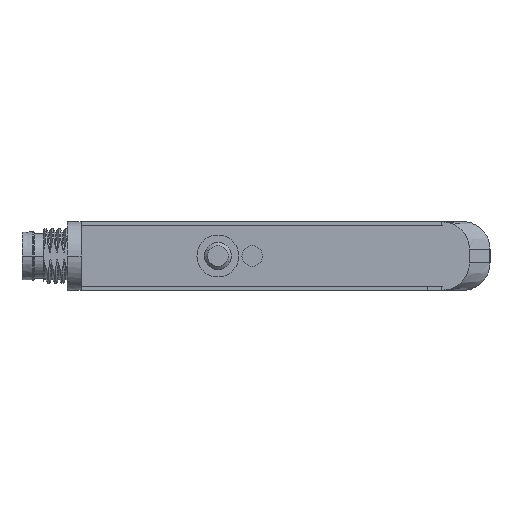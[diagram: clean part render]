
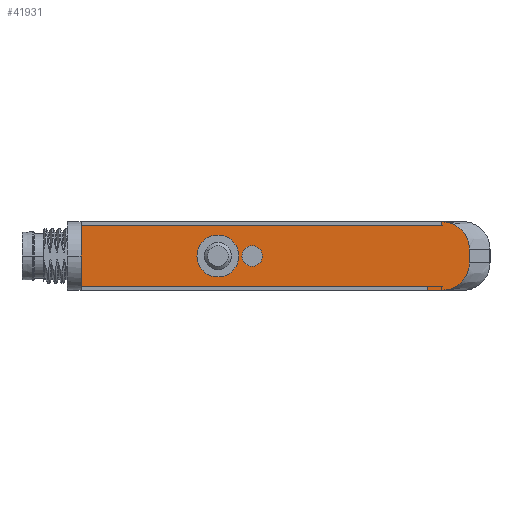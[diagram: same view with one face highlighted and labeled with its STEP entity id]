
A CAD part, left-side view. The second image highlights one B-rep face of the part: STEP entity #41931.
In plain terms, the highlighted planar face has unit normal (-1, 0, 0) as drawn and (0, 0, -1) by its records, which use the part's own axes.
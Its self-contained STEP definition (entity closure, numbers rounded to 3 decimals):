
#41572=CARTESIAN_POINT('',(3.15,-0.175,-0.75));
#41573=VERTEX_POINT('',#41572);
#41581=CARTESIAN_POINT('',(-2.95,-0.175,-0.75));
#41582=VERTEX_POINT('',#41581);
#41589=CARTESIAN_POINT('',(0.1,-0.175,-0.75));
#41590=DIRECTION('',(0.0,0.0,1.0));
#41591=DIRECTION('',(1.0,0.0,0.0));
#41592=AXIS2_PLACEMENT_3D('',#41589,#41590,#41591);
#41593=CIRCLE('',#41592,3.05);
#41594=EDGE_CURVE('',#41573,#41582,#41593,.T.);
#41690=CARTESIAN_POINT('',(3.6,-0.175,-0.75));
#41691=VERTEX_POINT('',#41690);
#41707=CARTESIAN_POINT('',(6.6,-0.175,-0.75));
#41708=VERTEX_POINT('',#41707);
#41715=CARTESIAN_POINT('',(5.1,-0.175,-0.75));
#41716=DIRECTION('',(0.0,0.0,1.0));
#41717=DIRECTION('',(-1.0,0.0,0.0));
#41718=AXIS2_PLACEMENT_3D('',#41715,#41716,#41717);
#41719=CIRCLE('',#41718,1.5);
#41720=EDGE_CURVE('',#41691,#41708,#41719,.T.);
#41731=CARTESIAN_POINT('',(5.1,-0.175,-0.75));
#41732=DIRECTION('',(0.0,0.0,1.0));
#41733=DIRECTION('',(-1.0,0.0,0.0));
#41734=AXIS2_PLACEMENT_3D('',#41731,#41732,#41733);
#41735=CIRCLE('',#41734,1.5);
#41736=EDGE_CURVE('',#41708,#41691,#41735,.T.);
#41783=CARTESIAN_POINT('',(32.7,-4.55,-0.75));
#41784=VERTEX_POINT('',#41783);
#41791=CARTESIAN_POINT('',(32.7,-5.175,-0.75));
#41792=VERTEX_POINT('',#41791);
#41793=CARTESIAN_POINT('',(32.7,-5.175,-0.75));
#41794=DIRECTION('',(0.0,1.0,0.0));
#41795=VECTOR('',#41794,0.625);
#41796=LINE('',#41793,#41795);
#41797=EDGE_CURVE('',#41792,#41784,#41796,.T.);
#41833=CARTESIAN_POINT('',(-22.625,-5.675,-0.75));
#41834=DIRECTION('',(0.0,0.0,1.0));
#41835=DIRECTION('',(1.0,0.0,0.0));
#41836=AXIS2_PLACEMENT_3D('',#41833,#41834,#41835);
#41837=PLANE('',#41836);
#41838=ORIENTED_EDGE('',*,*,#41797,.T.);
#41839=CARTESIAN_POINT('',(-19.8,-4.55,-0.75));
#41840=VERTEX_POINT('',#41839);
#41841=CARTESIAN_POINT('',(32.7,-4.55,-0.75));
#41842=DIRECTION('',(-1.0,0.0,0.0));
#41843=VECTOR('',#41842,52.5);
#41844=LINE('',#41841,#41843);
#41845=EDGE_CURVE('',#41784,#41840,#41844,.T.);
#41846=ORIENTED_EDGE('',*,*,#41845,.T.);
#41847=CARTESIAN_POINT('',(-19.8,4.2,-0.75));
#41848=VERTEX_POINT('',#41847);
#41849=CARTESIAN_POINT('',(-19.8,-4.55,-0.75));
#41850=DIRECTION('',(0.0,1.0,0.0));
#41851=VECTOR('',#41850,8.75);
#41852=LINE('',#41849,#41851);
#41853=EDGE_CURVE('',#41840,#41848,#41852,.T.);
#41854=ORIENTED_EDGE('',*,*,#41853,.T.);
#41855=CARTESIAN_POINT('',(30.6,4.2,-0.75));
#41856=VERTEX_POINT('',#41855);
#41857=CARTESIAN_POINT('',(-19.8,4.2,-0.75));
#41858=DIRECTION('',(1.0,0.0,0.0));
#41859=VECTOR('',#41858,50.4);
#41860=LINE('',#41857,#41859);
#41861=EDGE_CURVE('',#41848,#41856,#41860,.T.);
#41862=ORIENTED_EDGE('',*,*,#41861,.T.);
#41863=CARTESIAN_POINT('',(30.6,4.825,-0.75));
#41864=VERTEX_POINT('',#41863);
#41865=CARTESIAN_POINT('',(30.6,4.825,-0.75));
#41866=DIRECTION('',(0.0,-1.0,0.0));
#41867=VECTOR('',#41866,0.625);
#41868=LINE('',#41865,#41867);
#41869=EDGE_CURVE('',#41864,#41856,#41868,.T.);
#41870=ORIENTED_EDGE('',*,*,#41869,.F.);
#41871=CARTESIAN_POINT('',(32.7,4.825,-0.75));
#41872=VERTEX_POINT('',#41871);
#41873=CARTESIAN_POINT('',(32.7,4.825,-0.75));
#41874=DIRECTION('',(-1.0,0.0,0.0));
#41875=VECTOR('',#41874,2.1);
#41876=LINE('',#41873,#41875);
#41877=EDGE_CURVE('',#41872,#41864,#41876,.T.);
#41878=ORIENTED_EDGE('',*,*,#41877,.F.);
#41879=CARTESIAN_POINT('',(36.7,0.825,-0.75));
#41880=VERTEX_POINT('',#41879);
#41881=CARTESIAN_POINT('',(32.7,4.825,-0.75));
#41882=CARTESIAN_POINT('',(33.224,4.825,-0.75));
#41883=CARTESIAN_POINT('',(33.747,4.721,-0.75));
#41884=CARTESIAN_POINT('',(34.714,4.32,-0.75));
#41885=CARTESIAN_POINT('',(35.158,4.024,-0.75));
#41886=CARTESIAN_POINT('',(35.899,3.283,-0.75));
#41887=CARTESIAN_POINT('',(36.195,2.839,-0.75));
#41888=CARTESIAN_POINT('',(36.596,1.872,-0.75));
#41889=CARTESIAN_POINT('',(36.7,1.349,-0.75));
#41890=CARTESIAN_POINT('',(36.7,0.825,-0.75));
#41891=B_SPLINE_CURVE_WITH_KNOTS('',3,(#41881,#41882,#41883,#41884,#41885,#41886,#41887,#41888,#41889,#41890),.UNSPECIFIED.,.F.,.U.,(4,2,2,2,4),(0.0,0.25,0.5,0.75,1.0),.UNSPECIFIED.);
#41892=EDGE_CURVE('',#41872,#41880,#41891,.T.);
#41893=ORIENTED_EDGE('',*,*,#41892,.T.);
#41894=CARTESIAN_POINT('',(36.7,-1.175,-0.75));
#41895=VERTEX_POINT('',#41894);
#41896=CARTESIAN_POINT('',(36.7,0.825,-0.75));
#41897=DIRECTION('',(0.0,-1.0,0.0));
#41898=VECTOR('',#41897,2.);
#41899=LINE('',#41896,#41898);
#41900=EDGE_CURVE('',#41880,#41895,#41899,.T.);
#41901=ORIENTED_EDGE('',*,*,#41900,.T.);
#41902=CARTESIAN_POINT('',(36.7,-1.175,-0.75));
#41903=CARTESIAN_POINT('',(36.7,-1.699,-0.75));
#41904=CARTESIAN_POINT('',(36.596,-2.222,-0.75));
#41905=CARTESIAN_POINT('',(36.195,-3.189,-0.75));
#41906=CARTESIAN_POINT('',(35.899,-3.633,-0.75));
#41907=CARTESIAN_POINT('',(35.158,-4.374,-0.75));
#41908=CARTESIAN_POINT('',(34.714,-4.67,-0.75));
#41909=CARTESIAN_POINT('',(33.747,-5.071,-0.75));
#41910=CARTESIAN_POINT('',(33.224,-5.175,-0.75));
#41911=CARTESIAN_POINT('',(32.7,-5.175,-0.75));
#41912=B_SPLINE_CURVE_WITH_KNOTS('',3,(#41902,#41903,#41904,#41905,#41906,#41907,#41908,#41909,#41910,#41911),.UNSPECIFIED.,.F.,.U.,(4,2,2,2,4),(0.0,0.25,0.5,0.75,1.0),.UNSPECIFIED.);
#41913=EDGE_CURVE('',#41895,#41792,#41912,.T.);
#41914=ORIENTED_EDGE('',*,*,#41913,.T.);
#41915=EDGE_LOOP('',(#41838,#41846,#41854,#41862,#41870,#41878,#41893,#41901,#41914));
#41916=FACE_OUTER_BOUND('',#41915,.T.);
#41917=ORIENTED_EDGE('',*,*,#41720,.T.);
#41918=ORIENTED_EDGE('',*,*,#41736,.T.);
#41919=EDGE_LOOP('',(#41917,#41918));
#41920=FACE_BOUND('',#41919,.T.);
#41921=ORIENTED_EDGE('',*,*,#41594,.T.);
#41922=CARTESIAN_POINT('',(0.1,-0.175,-0.75));
#41923=DIRECTION('',(0.0,0.0,1.0));
#41924=DIRECTION('',(1.0,0.0,0.0));
#41925=AXIS2_PLACEMENT_3D('',#41922,#41923,#41924);
#41926=CIRCLE('',#41925,3.05);
#41927=EDGE_CURVE('',#41582,#41573,#41926,.T.);
#41928=ORIENTED_EDGE('',*,*,#41927,.T.);
#41929=EDGE_LOOP('',(#41921,#41928));
#41930=FACE_BOUND('',#41929,.T.);
#41931=ADVANCED_FACE('',(#41916,#41920,#41930),#41837,.F.);
